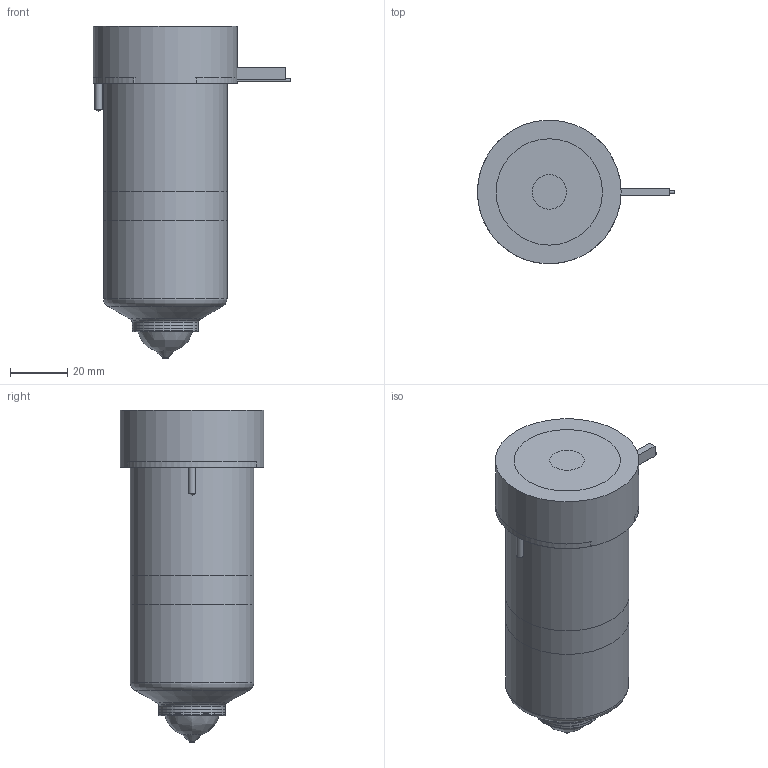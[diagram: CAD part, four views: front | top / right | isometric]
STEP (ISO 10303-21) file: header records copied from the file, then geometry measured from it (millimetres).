
FILE_DESCRIPTION(/* description */ (''),/* implementation_level */ '2;1');
FILE_NAME(/* name */ 'BXOT27095_250C_b',/* time_stamp */ '2007-01-18T08:46:50+13:00',/* author */ (''),/* organization */ (''),/* preprocessor_version */ 'ST-DEVELOPER v9',/* originating_system */ 'UGS - NX 4.0',/* authorisation */ '');
FILE_SCHEMA (('CONFIG_CONTROL_DESIGN'));
Length unit declared in the file: millimetre
Products named in the file (1): BXOT27095_250C_b
Bounding box: 68.6 x 50 x 115.51 mm (x, y, z)
Volume: 299251.3 mm3; surface area: 41505.3 mm2
Topology: 6 solids, 6 shells, 83 faces, 166 edges, 106 vertices
Faces by surface type: plane 34, cylinder 25, cone 12, torus 9, bspline 3
Full cylindrical faces by diameter (mm): 1 x3, 2 x1, 2.5 x2, 12 x1, 16.8 x1, 17 x1, 22.61 x1, 23.01 x2, 27.5 x1, 38.1 x1, 43 x2, 50 x1
Entity records: 2213 total; most frequent: CARTESIAN_POINT 562, DIRECTION 344, ORIENTED_EDGE 248, AXIS2_PLACEMENT_3D 153, EDGE_LOOP 128, EDGE_CURVE 124, VERTEX_POINT 99, ADVANCED_FACE 83
